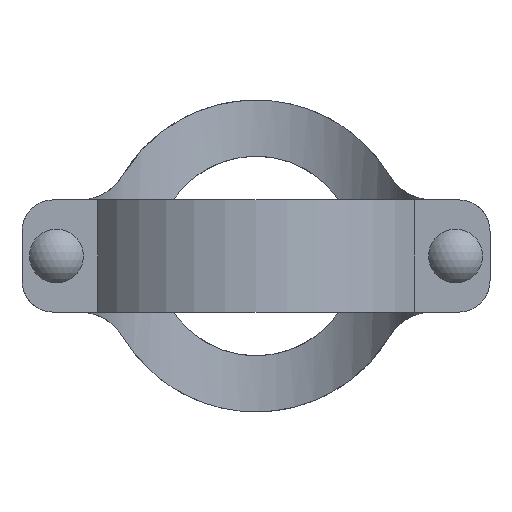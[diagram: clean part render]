
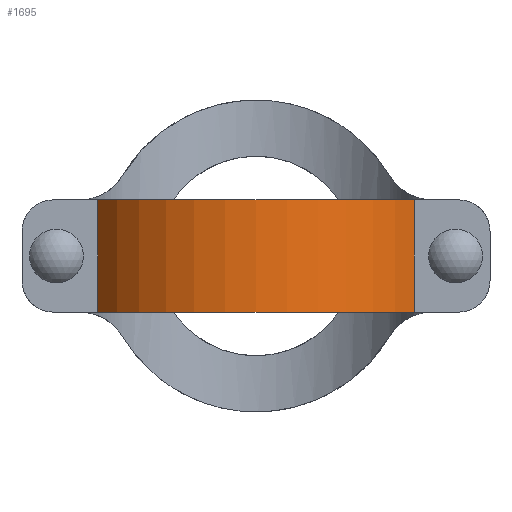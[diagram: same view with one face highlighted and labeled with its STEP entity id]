
A CAD part, front view. The second image highlights one B-rep face of the part: STEP entity #1695.
In plain terms, the highlighted cylindrical face has radius 95.25 mm (diameter 190.5 mm), a partial arc.
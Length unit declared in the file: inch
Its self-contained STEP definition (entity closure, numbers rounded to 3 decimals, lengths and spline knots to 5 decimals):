
#99=CYLINDRICAL_SURFACE('',#1846,3.75);
#179=FACE_OUTER_BOUND('',#269,.T.);
#269=EDGE_LOOP('',(#1295,#1296,#1297,#1298));
#410=LINE('',#3074,#547);
#411=LINE('',#3076,#548);
#547=VECTOR('',#2218,0.3937);
#548=VECTOR('',#2219,0.3937);
#622=CIRCLE('',#1845,3.75);
#623=CIRCLE('',#1847,3.75);
#765=VERTEX_POINT('',#3067);
#766=VERTEX_POINT('',#3069);
#767=VERTEX_POINT('',#3073);
#768=VERTEX_POINT('',#3075);
#966=EDGE_CURVE('',#765,#766,#622,.T.);
#968=EDGE_CURVE('',#766,#767,#410,.T.);
#969=EDGE_CURVE('',#768,#765,#411,.T.);
#970=EDGE_CURVE('',#767,#768,#623,.T.);
#1295=ORIENTED_EDGE('',*,*,#968,.F.);
#1296=ORIENTED_EDGE('',*,*,#966,.F.);
#1297=ORIENTED_EDGE('',*,*,#969,.F.);
#1298=ORIENTED_EDGE('',*,*,#970,.F.);
#1695=ADVANCED_FACE('',(#179),#99,.T.);
#1845=AXIS2_PLACEMENT_3D('',#3070,#2213,#2214);
#1846=AXIS2_PLACEMENT_3D('',#3072,#2216,#2217);
#1847=AXIS2_PLACEMENT_3D('',#3077,#2220,#2221);
#2213=DIRECTION('center_axis',(0.,0.,1.));
#2214=DIRECTION('ref_axis',(-0.846,-0.533,0.));
#2216=DIRECTION('center_axis',(0.,0.,1.));
#2217=DIRECTION('ref_axis',(-0.846,-0.533,0.));
#2218=DIRECTION('',(0.,0.,-1.));
#2219=DIRECTION('',(0.,0.,1.));
#2220=DIRECTION('center_axis',(0.,0.,-1.));
#2221=DIRECTION('ref_axis',(-0.846,-0.533,0.));
#3067=CARTESIAN_POINT('',(-3.17214,-2.,1.125));
#3069=CARTESIAN_POINT('',(3.17214,-2.,1.125));
#3070=CARTESIAN_POINT('Origin',(0.,0.,1.125));
#3072=CARTESIAN_POINT('Origin',(0.,0.,0.));
#3073=CARTESIAN_POINT('',(3.17214,-2.,-1.125));
#3074=CARTESIAN_POINT('',(3.17214,-2.,0.));
#3075=CARTESIAN_POINT('',(-3.17214,-2.,-1.125));
#3076=CARTESIAN_POINT('',(-3.17214,-2.,0.));
#3077=CARTESIAN_POINT('Origin',(0.,0.,-1.125));
